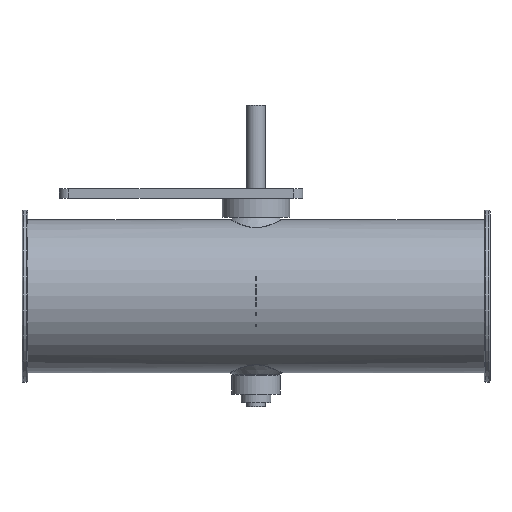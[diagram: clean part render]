
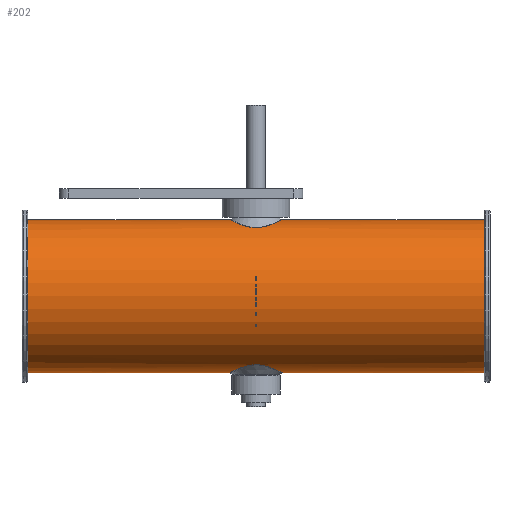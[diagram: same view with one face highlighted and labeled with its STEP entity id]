
A CAD part, top view. The second image highlights one B-rep face of the part: STEP entity #202.
In plain terms, the highlighted cylindrical face has radius 40.8 mm (diameter 81.6 mm), a full revolution.
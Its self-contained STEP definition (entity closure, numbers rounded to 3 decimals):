
#113=B_SPLINE_CURVE_WITH_KNOTS('',3,(#1576,#1577,#1578,#1579,#1580,#1581,
#1582,#1583,#1584,#1585,#1586,#1587,#1588,#1589,#1590,#1591,#1592,#1593,
#1594,#1595,#1596,#1597,#1598,#1599,#1600,#1601,#1602,#1603),.UNSPECIFIED.,
 .T.,.F.,(2,2,2,2,2,2,2,2,2,2,2,2,2,2,2,2),(-0.063,0.,0.125,
0.25,0.313,0.375,0.438,
0.5,0.563,0.625,0.75,0.813,0.875,
0.938,1.,1.125),.UNSPECIFIED.);
#114=B_SPLINE_CURVE_WITH_KNOTS('',3,(#1605,#1606,#1607,#1608,#1609,#1610,
#1611,#1612,#1613,#1614,#1615,#1616,#1617,#1618,#1619,#1620,#1621,#1622,
#1623,#1624,#1625,#1626,#1627,#1628,#1629,#1630,#1631,#1632,#1633,#1634),
 .UNSPECIFIED.,.T.,.F.,(2,2,2,2,2,2,2,2,2,2,2,2,2,2,2,2,2),(-0.063,
0.,0.062,0.125,0.188,0.25,0.375,0.438,0.5,0.563,
0.625,0.688,0.75,0.875,0.938,1.,1.063),.UNSPECIFIED.);
#149=CYLINDRICAL_SURFACE('',#1093,40.8);
#202=ADVANCED_FACE('',(#363,#364,#365,#366),#149,.T.);
#363=FACE_BOUND('',#497,.T.);
#364=FACE_BOUND('',#498,.T.);
#365=FACE_BOUND('',#499,.T.);
#366=FACE_BOUND('',#500,.T.);
#497=EDGE_LOOP('',(#675));
#498=EDGE_LOOP('',(#676));
#499=EDGE_LOOP('',(#677));
#500=EDGE_LOOP('',(#678));
#675=ORIENTED_EDGE('',*,*,#917,.T.);
#676=ORIENTED_EDGE('',*,*,#918,.T.);
#677=ORIENTED_EDGE('',*,*,#919,.T.);
#678=ORIENTED_EDGE('',*,*,#920,.F.);
#823=VERTEX_POINT('',#1575);
#824=VERTEX_POINT('',#1604);
#825=VERTEX_POINT('',#1635);
#826=VERTEX_POINT('',#1637);
#917=EDGE_CURVE('',#823,#823,#999,.T.);
#918=EDGE_CURVE('',#824,#824,#113,.T.);
#919=EDGE_CURVE('',#825,#825,#114,.T.);
#920=EDGE_CURVE('',#826,#826,#1000,.T.);
#999=CIRCLE('',#1091,40.8);
#1000=CIRCLE('',#1092,40.8);
#1091=AXIS2_PLACEMENT_3D('',#1574,#1294,#1295);
#1092=AXIS2_PLACEMENT_3D('',#1636,#1296,#1297);
#1093=AXIS2_PLACEMENT_3D('',#1638,#1298,#1299);
#1294=DIRECTION('',(1.,0.,0.));
#1295=DIRECTION('',(0.,0.,1.));
#1296=DIRECTION('',(1.,0.,0.));
#1297=DIRECTION('',(0.,0.,1.));
#1298=DIRECTION('',(1.,0.,0.));
#1299=DIRECTION('',(0.,0.,-1.));
#1574=CARTESIAN_POINT('',(-122.,1.7,125.));
#1575=CARTESIAN_POINT('',(-122.,1.7,165.8));
#1576=CARTESIAN_POINT('',(-5.395,-35.522,108.233));
#1577=CARTESIAN_POINT('',(-10.314,-37.121,112.136));
#1578=CARTESIAN_POINT('',(-12.526,-38.286,115.893));
#1579=CARTESIAN_POINT('',(-14.573,-39.3,124.113));
#1580=CARTESIAN_POINT('',(-14.278,-39.137,128.606));
#1581=CARTESIAN_POINT('',(-11.972,-38.029,134.501));
#1582=CARTESIAN_POINT('',(-10.92,-37.535,136.319));
#1583=CARTESIAN_POINT('',(-8.287,-36.464,139.527));
#1584=CARTESIAN_POINT('',(-6.711,-35.88,140.922));
#1585=CARTESIAN_POINT('',(-2.997,-34.995,142.868));
#1586=CARTESIAN_POINT('',(-0.776,-34.74,143.354));
#1587=CARTESIAN_POINT('',(3.453,-35.035,142.757));
#1588=CARTESIAN_POINT('',(5.401,-35.524,141.764));
#1589=CARTESIAN_POINT('',(8.676,-36.588,139.164));
#1590=CARTESIAN_POINT('',(10.013,-37.153,137.588));
#1591=CARTESIAN_POINT('',(12.212,-38.133,134.022));
#1592=CARTESIAN_POINT('',(13.03,-38.535,132.078));
#1593=CARTESIAN_POINT('',(14.58,-39.303,125.868));
#1594=CARTESIAN_POINT('',(14.29,-39.142,121.43));
#1595=CARTESIAN_POINT('',(11.972,-38.029,115.496));
#1596=CARTESIAN_POINT('',(10.935,-37.541,113.701));
#1597=CARTESIAN_POINT('',(8.286,-36.463,110.47));
#1598=CARTESIAN_POINT('',(6.716,-35.882,109.082));
#1599=CARTESIAN_POINT('',(2.997,-34.995,107.132));
#1600=CARTESIAN_POINT('',(0.781,-34.74,106.646));
#1601=CARTESIAN_POINT('',(-3.455,-35.035,107.243));
#1602=CARTESIAN_POINT('',(-5.395,-35.522,108.233));
#1603=CARTESIAN_POINT('',(-10.314,-37.121,112.136));
#1604=CARTESIAN_POINT('',(-7.035,-36.055,109.534));
#1605=CARTESIAN_POINT('',(-8.677,39.989,110.837));
#1606=CARTESIAN_POINT('',(-5.393,38.921,108.231));
#1607=CARTESIAN_POINT('',(-3.45,38.434,107.241));
#1608=CARTESIAN_POINT('',(0.792,38.14,106.646));
#1609=CARTESIAN_POINT('',(3.004,38.396,107.134));
#1610=CARTESIAN_POINT('',(6.717,39.282,109.083));
#1611=CARTESIAN_POINT('',(8.288,39.864,110.473));
#1612=CARTESIAN_POINT('',(10.931,40.94,113.696));
#1613=CARTESIAN_POINT('',(11.98,41.432,115.513));
#1614=CARTESIAN_POINT('',(14.288,42.542,121.434));
#1615=CARTESIAN_POINT('',(14.582,42.704,125.865));
#1616=CARTESIAN_POINT('',(13.027,41.934,132.088));
#1617=CARTESIAN_POINT('',(12.211,41.533,134.023));
#1618=CARTESIAN_POINT('',(10.01,40.552,137.592));
#1619=CARTESIAN_POINT('',(8.677,39.989,139.161));
#1620=CARTESIAN_POINT('',(5.414,38.928,141.755));
#1621=CARTESIAN_POINT('',(3.469,38.437,142.752));
#1622=CARTESIAN_POINT('',(-0.771,38.14,143.355));
#1623=CARTESIAN_POINT('',(-2.988,38.393,142.871));
#1624=CARTESIAN_POINT('',(-6.705,39.278,140.927));
#1625=CARTESIAN_POINT('',(-8.278,39.86,139.536));
#1626=CARTESIAN_POINT('',(-10.923,40.936,136.316));
#1627=CARTESIAN_POINT('',(-11.974,41.429,134.5));
#1628=CARTESIAN_POINT('',(-14.288,42.542,128.573));
#1629=CARTESIAN_POINT('',(-14.582,42.704,124.14));
#1630=CARTESIAN_POINT('',(-13.03,41.935,117.919));
#1631=CARTESIAN_POINT('',(-12.213,41.533,115.98));
#1632=CARTESIAN_POINT('',(-10.013,40.553,112.411));
#1633=CARTESIAN_POINT('',(-8.677,39.989,110.837));
#1634=CARTESIAN_POINT('',(-5.393,38.921,108.231));
#1635=CARTESIAN_POINT('',(-7.035,39.455,109.534));
#1636=CARTESIAN_POINT('',(122.,1.7,125.));
#1637=CARTESIAN_POINT('',(122.,1.7,165.8));
#1638=CARTESIAN_POINT('',(-125.,1.7,125.));
